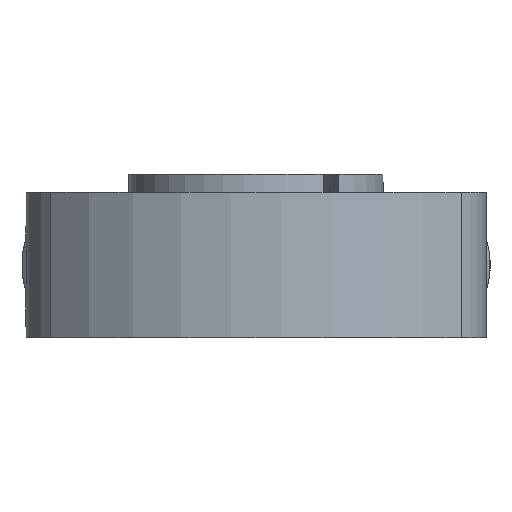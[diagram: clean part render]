
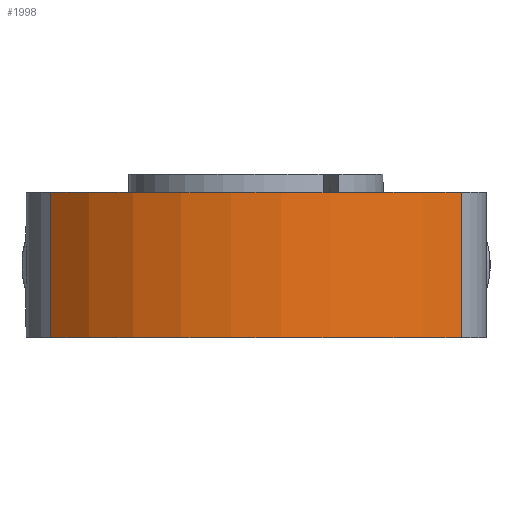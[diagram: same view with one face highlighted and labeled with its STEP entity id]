
A CAD part, front view. The second image highlights one B-rep face of the part: STEP entity #1998.
In plain terms, the highlighted cylindrical face has radius 16 mm (diameter 32 mm), a partial arc.
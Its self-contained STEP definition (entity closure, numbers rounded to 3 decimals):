
#694 = ORIENTED_EDGE ( 'NONE', *, *, #33207, .T. ) ;
#1998 = ADVANCED_FACE ( 'NONE', ( #3484 ), #27036, .T. ) ;
#2159 = CIRCLE ( 'NONE', #19879, 16. ) ;
#2264 = EDGE_CURVE ( 'NONE', #19920, #15060, #19853, .T. ) ;
#3484 = FACE_OUTER_BOUND ( 'NONE', #45635, .T. ) ;
#3699 = EDGE_CURVE ( 'NONE', #19920, #21946, #2159, .T. ) ;
#4223 = DIRECTION ( 'NONE',  ( -1., 0., 0. ) ) ;
#6953 = CARTESIAN_POINT ( 'NONE',  ( 0., 0., 4. ) ) ;
#8096 = CARTESIAN_POINT ( 'NONE',  ( 0., 0., -4. ) ) ;
#8813 = VECTOR ( 'NONE', #21219, 1000. ) ;
#12296 = DIRECTION ( 'NONE',  ( 0., 0., 1. ) ) ;
#12774 = LINE ( 'NONE', #44929, #44886 ) ;
#13159 = CARTESIAN_POINT ( 'NONE',  ( -11.314, -11.314, -4. ) ) ;
#15060 = VERTEX_POINT ( 'NONE', #33075 ) ;
#19853 = LINE ( 'NONE', #26160, #8813 ) ;
#19879 = AXIS2_PLACEMENT_3D ( 'NONE', #6953, #52522, #31656 ) ;
#19920 = VERTEX_POINT ( 'NONE', #31019 ) ;
#20731 = DIRECTION ( 'NONE',  ( -1., 0., 0. ) ) ;
#21219 = DIRECTION ( 'NONE',  ( 0., 0., -1. ) ) ;
#21946 = VERTEX_POINT ( 'NONE', #24294 ) ;
#23672 = AXIS2_PLACEMENT_3D ( 'NONE', #25303, #54034, #20731 ) ;
#24294 = CARTESIAN_POINT ( 'NONE',  ( -11.314, -11.314, 4. ) ) ;
#24529 = DIRECTION ( 'NONE',  ( 0., 0., -1. ) ) ;
#25303 = CARTESIAN_POINT ( 'NONE',  ( 0., 0., 4. ) ) ;
#26160 = CARTESIAN_POINT ( 'NONE',  ( 11.314, -11.314, -4. ) ) ;
#27036 = CYLINDRICAL_SURFACE ( 'NONE', #23672, 16. ) ;
#27058 = EDGE_CURVE ( 'NONE', #54178, #15060, #52355, .T. ) ;
#30365 = ORIENTED_EDGE ( 'NONE', *, *, #2264, .F. ) ;
#31019 = CARTESIAN_POINT ( 'NONE',  ( 11.314, -11.314, 4. ) ) ;
#31656 = DIRECTION ( 'NONE',  ( -1., 0., 0. ) ) ;
#33075 = CARTESIAN_POINT ( 'NONE',  ( 11.314, -11.314, -4. ) ) ;
#33196 = ORIENTED_EDGE ( 'NONE', *, *, #27058, .T. ) ;
#33207 = EDGE_CURVE ( 'NONE', #21946, #54178, #12774, .T. ) ;
#36128 = AXIS2_PLACEMENT_3D ( 'NONE', #8096, #12296, #4223 ) ;
#44886 = VECTOR ( 'NONE', #24529, 1000. ) ;
#44929 = CARTESIAN_POINT ( 'NONE',  ( -11.314, -11.314, 4. ) ) ;
#45635 = EDGE_LOOP ( 'NONE', ( #47839, #694, #33196, #30365 ) ) ;
#47839 = ORIENTED_EDGE ( 'NONE', *, *, #3699, .T. ) ;
#52355 = CIRCLE ( 'NONE', #36128, 16. ) ;
#52522 = DIRECTION ( 'NONE',  ( 0., 0., -1. ) ) ;
#54034 = DIRECTION ( 'NONE',  ( 0., 0., -1. ) ) ;
#54178 = VERTEX_POINT ( 'NONE', #13159 ) ;
